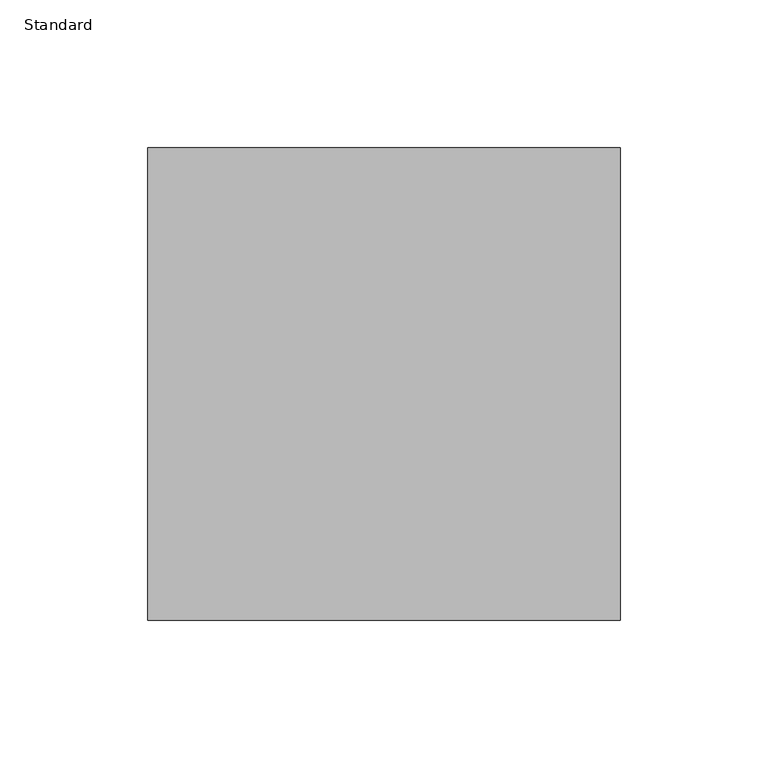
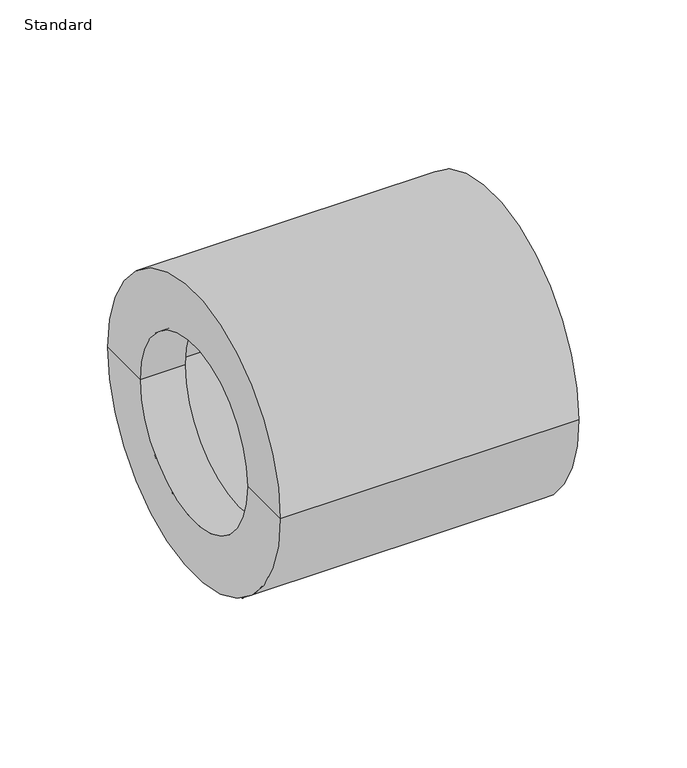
"""IFC4 building model written with IfcOpenShell, lengths in millimetres: pipe fitting geometry, Durapipe_PipeFitting_PVC_ReducingBush : Standard."""

from ifc_helpers import new_model, si_unit, frame, origin, place, context, project, spatial, polyline, circle_curve, source, transform, mapped, element, save
from ifc_brep_helpers import plane_surface, cylinder_surface, revolved_surface, advanced_brep


def standard_e77122b3(model_context):
    return source(origin(), model_context, "Body", "AdvancedBrep", [
        advanced_brep(
        [(-24.0, -50.0, 0.0), (-24.0, 50.0, 0.0), (-24.0, 80.0, 0.0), (-24.0, -80.0, 0.0), (0.0, -50.0, 0.0), (0.0, 50.0, 0.0), (0.0, -55.0, 0.0), (0.0, 55.0, 0.0), (136.0, -55.0, 0.0), (136.0, 55.0, 0.0), (136.0, -80.0, 0.0), (136.0, 80.0, 0.0)],
        [
            (0, 1, circle_curve(frame((-24.0, 0.0, 0.0), z_axis=(1.0, 0.0, 0.0), x_axis=(0.0, 1.0, 0.0)), 50.0)),
            (1, 2),
            (2, 3, circle_curve(frame((-24.0, 0.0, 0.0), z_axis=(-1.0, 0.0, 0.0), x_axis=(0.0, 1.0, 0.0)), 80.0)),
            (3, 0),
            (1, 0, circle_curve(frame((-24.0, 0.0, 0.0), z_axis=(1.0, 0.0, 0.0), x_axis=(0.0, 1.0, 0.0)), 50.0)),
            (3, 2, circle_curve(frame((-24.0, 0.0, 0.0), z_axis=(-1.0, 0.0, 0.0), x_axis=(0.0, 1.0, 0.0)), 80.0)),
            (4, 5, circle_curve(frame((0.0, 0.0, 0.0), z_axis=(1.0, 0.0, 0.0), x_axis=(0.0, 1.0, 0.0)), 50.0)),
            (5, 1),
            (0, 4),
            (5, 4, circle_curve(frame((0.0, 0.0, 0.0), z_axis=(1.0, 0.0, 0.0), x_axis=(0.0, 1.0, 0.0)), 50.0)),
            (6, 7, circle_curve(frame((0.0, 0.0, 0.0), z_axis=(1.0, 0.0, 0.0), x_axis=(0.0, 1.0, 0.0)), 55.0)),
            (7, 5),
            (4, 6),
            (7, 6, circle_curve(frame((0.0, 0.0, 0.0), z_axis=(1.0, 0.0, 0.0), x_axis=(0.0, 1.0, 0.0)), 55.0)),
            (8, 9, circle_curve(frame((136.0, 0.0, 0.0), z_axis=(1.0, 0.0, 0.0), x_axis=(0.0, 1.0, 0.0)), 55.0)),
            (9, 7),
            (6, 8),
            (9, 8, circle_curve(frame((136.0, 0.0, 0.0), z_axis=(1.0, 0.0, 0.0), x_axis=(0.0, 1.0, 0.0)), 55.0)),
            (10, 11, circle_curve(frame((136.0, 0.0, 0.0), z_axis=(1.0, 0.0, 0.0), x_axis=(0.0, 1.0, 0.0)), 80.0)),
            (11, 9),
            (8, 10),
            (11, 10, circle_curve(frame((136.0, 0.0, 0.0), z_axis=(1.0, 0.0, 0.0), x_axis=(0.0, 1.0, 0.0)), 80.0)),
            (2, 11),
            (10, 3),
        ],
        [
            plane_surface(frame((-24.0, 0.0, 0.0), z_axis=(-1.0, 0.0, 0.0), x_axis=(0.0, 1.0, 0.0))),
            revolved_surface(polyline([(-24.0, 50.0, 0.0), (0.0, 50.0, 0.0)]), (2122.0, 0.0, 0.0), (-1.0, 0.0, 0.0)),
            plane_surface(frame((0.0, 0.0, 0.0), z_axis=(1.0, 0.0, 0.0), x_axis=(0.0, 1.0, 0.0))),
            revolved_surface(polyline([(0.0, 55.0, 0.0), (136.0, 55.0, 0.0)]), (2122.0, 0.0, 0.0), (-1.0, 0.0, 0.0)),
            plane_surface(frame((136.0, 0.0, 0.0), z_axis=(1.0, 0.0, 0.0), x_axis=(0.0, 1.0, 0.0))),
            cylinder_surface(frame((2122.0, 0.0, 0.0), z_axis=(-1.0, 0.0, 0.0), x_axis=(0.0, 1.0, 0.0)), 80.0),
        ],
        [
            (0, [[1, 2, 3, 4]]),
            (0, [[5, -4, 6, -2]]),
            (1, [[7, 8, -1, 9]]),
            (1, [[10, -9, -5, -8]]),
            (2, [[11, 12, -7, 13]]),
            (2, [[14, -13, -10, -12]]),
            (3, [[15, 16, -11, 17]]),
            (3, [[18, -17, -14, -16]]),
            (4, [[19, 20, -15, 21]]),
            (4, [[22, -21, -18, -20]]),
            (5, [[-3, 23, -19, 24]]),
            (5, [[-6, -24, -22, -23]]),
        ],
    ),
    ])


if __name__ == "__main__":
    model = new_model("IFC4")
    model_context = context("Model", 3, world=origin())
    ifc_project = project(units=[si_unit("LENGTHUNIT", "METRE", prefix="MILLI")], contexts=[model_context])
    site = spatial("IfcSite", under=ifc_project)
    building = spatial("IfcBuilding", under=site)
    placement = place(None, origin())
    standard_shape = standard_e77122b3(model_context)
    element("IfcPipeFitting", 1, ObjectType="Durapipe_PipeFitting_PVC_ReducingBush : Standard", at=placement, inside=building, context=model_context, shape_type="MappedRepresentation", body=[
        mapped(standard_shape, transform((0.0, 0.0, 0.0), x_axis=(1.0, 0.0, 0.0), y_axis=(0.0, 1.0, 0.0), z_axis=(0.0, 0.0, 1.0))),
    ])
    save(model, "model.ifc")
